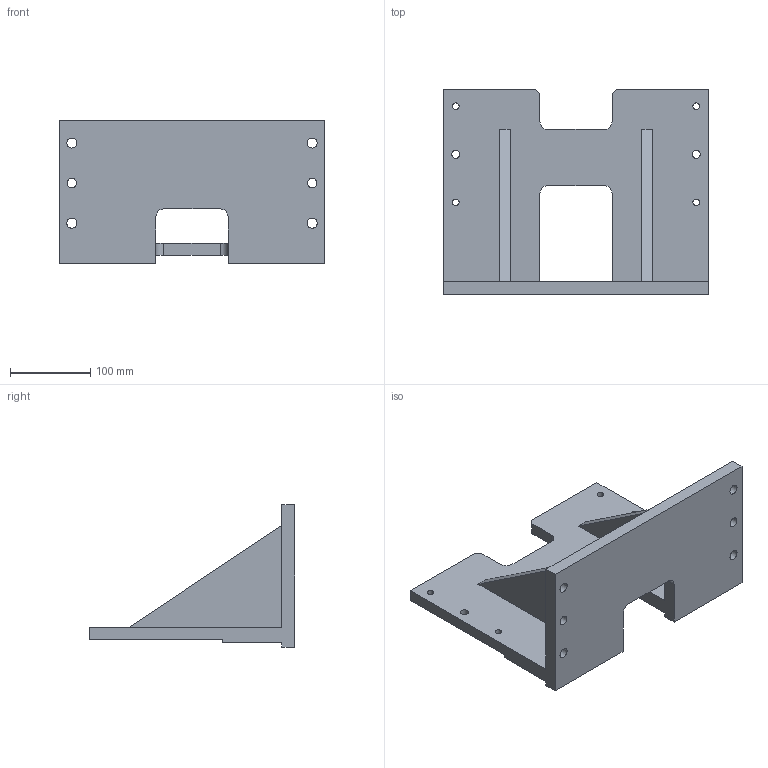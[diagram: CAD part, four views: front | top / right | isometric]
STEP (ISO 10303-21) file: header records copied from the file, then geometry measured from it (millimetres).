
FILE_DESCRIPTION(/* description */ ('DB4-RISER'),/* implementation_level */ '2;1');
FILE_NAME(/* name */ 'C:\Vault Workspace\CAD\Welker\Shot Pin\DBL40\S01896 DB4 Mounting Accessories\S01896E02\S01896E02-175.stp',/* time_stamp */ '2016-05-04T13:48:52-04:00',/* author */ ('klabrecque'),/* organization */ (''),/* preprocessor_version */ 'ST-DEVELOPER v15.2',/* originating_system */ 'Autodesk Inventor 2014',/* authorisation */ '');
FILE_SCHEMA (('AUTOMOTIVE_DESIGN { 1 0 10303 214 3 1 1 }'));
Length unit declared in the file: millimetre
Products named in the file (1): S01896E02-175
Bounding box: 330 x 256 x 177.8 mm (x, y, z)
Volume: 2164786.1 mm3; surface area: 317394.1 mm2
Topology: 1 solids, 1 shells, 50 faces, 162 edges, 112 vertices
Faces by surface type: plane 32, cylinder 18
Full cylindrical faces by diameter (mm): 8.376 x4, 10 x2, 12 x2, 12.5 x4
Entity records: 1753 total; most frequent: CARTESIAN_POINT 289, ORIENTED_EDGE 276, DIRECTION 276, EDGE_CURVE 138, LINE 102, VECTOR 102, VERTEX_POINT 100, AXIS2_PLACEMENT_3D 87
